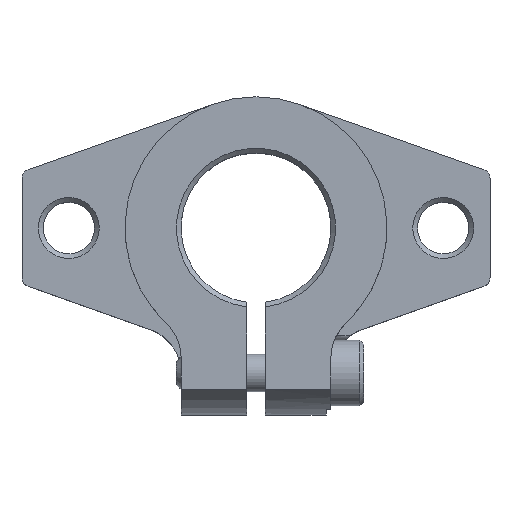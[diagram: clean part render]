
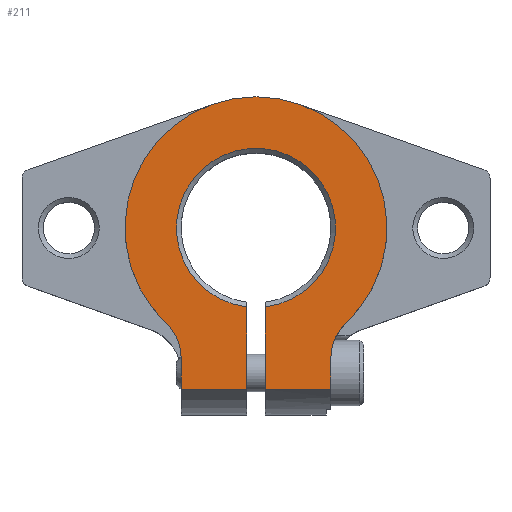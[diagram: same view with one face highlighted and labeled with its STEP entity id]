
A CAD part, top view. The second image highlights one B-rep face of the part: STEP entity #211.
In plain terms, the highlighted planar face has unit normal (0, 0, 1).
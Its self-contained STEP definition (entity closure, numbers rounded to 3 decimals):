
#211=ADVANCED_FACE('',(#784),#786,.T.);
#784=FACE_BOUND('',#785,.T.);
#785=EDGE_LOOP('',(#1278,#1279,#1280,#1281,#1282,#1283,#1284,#1285,#1286,#1287));
#786=PLANE('',#787);
#787=AXIS2_PLACEMENT_3D('',#788,#789,#790);
#788=CARTESIAN_POINT('',(0.,0.,8.));
#789=DIRECTION('',(0.,0.,1.));
#790=DIRECTION('',(1.,0.,0.));
#1278=ORIENTED_EDGE('',*,*,#1569,.T.);
#1279=ORIENTED_EDGE('',*,*,#1567,.T.);
#1280=ORIENTED_EDGE('',*,*,#1570,.T.);
#1281=ORIENTED_EDGE('',*,*,#1571,.T.);
#1282=ORIENTED_EDGE('',*,*,#1572,.T.);
#1283=ORIENTED_EDGE('',*,*,#1573,.T.);
#1284=ORIENTED_EDGE('',*,*,#1574,.T.);
#1285=ORIENTED_EDGE('',*,*,#1536,.T.);
#1286=ORIENTED_EDGE('',*,*,#1575,.T.);
#1287=ORIENTED_EDGE('',*,*,#1530,.T.);
#1530=EDGE_CURVE('',#1679,#1676,#1680,.T.);
#1536=EDGE_CURVE('',#1690,#1691,#1692,.T.);
#1567=EDGE_CURVE('',#1743,#1748,#1750,.T.);
#1569=EDGE_CURVE('',#1676,#1743,#1753,.T.);
#1570=EDGE_CURVE('',#1748,#1754,#1755,.F.);
#1571=EDGE_CURVE('',#1754,#1756,#1757,.T.);
#1572=EDGE_CURVE('',#1756,#1758,#1759,.F.);
#1573=EDGE_CURVE('',#1758,#1760,#1761,.F.);
#1574=EDGE_CURVE('',#1760,#1690,#1762,.F.);
#1575=EDGE_CURVE('',#1691,#1679,#1763,.F.);
#1676=VERTEX_POINT('',#1926);
#1679=VERTEX_POINT('',#1933);
#1680=LINE('',#1934,#1935);
#1690=VERTEX_POINT('',#1960);
#1691=VERTEX_POINT('',#1961);
#1692=LINE('',#1962,#1963);
#1743=VERTEX_POINT('',#2079);
#1748=VERTEX_POINT('',#2094);
#1750=LINE('',#2099,#2100);
#1753=CIRCLE('',#2107,8.5);
#1754=VERTEX_POINT('',#2111);
#1755=LINE('',#2112,#2113);
#1756=VERTEX_POINT('',#2115);
#1757=LINE('',#2116,#2117);
#1758=VERTEX_POINT('',#2119);
#1759=CIRCLE('',#2120,5.);
#1760=VERTEX_POINT('',#2124);
#1761=CIRCLE('',#2125,14.);
#1762=CIRCLE('',#2129,5.);
#1763=LINE('',#2133,#2134);
#1926=CARTESIAN_POINT('',(-1.,-8.441,8.));
#1933=CARTESIAN_POINT('',(-1.,-17.247,8.));
#1934=CARTESIAN_POINT('',(-1.,-17.247,8.));
#1935=VECTOR('',#1936,1.);
#1936=DIRECTION('',(0.,1.,0.));
#1960=CARTESIAN_POINT('',(-8.,-13.856,8.));
#1961=CARTESIAN_POINT('',(-8.,-17.247,8.));
#1962=CARTESIAN_POINT('',(-8.,-13.856,8.));
#1963=VECTOR('',#1964,1.);
#1964=DIRECTION('',(0.,-1.,0.));
#2079=CARTESIAN_POINT('',(1.,-8.441,8.));
#2094=CARTESIAN_POINT('',(1.,-17.247,8.));
#2099=CARTESIAN_POINT('',(1.,-8.441,8.));
#2100=VECTOR('',#2101,1.);
#2101=DIRECTION('',(0.,-1.,0.));
#2107=AXIS2_PLACEMENT_3D('',#2108,#2109,#2110);
#2108=CARTESIAN_POINT('',(0.,0.,8.));
#2109=DIRECTION('',(0.,0.,-1.));
#2110=DIRECTION('',(-0.118,-0.993,0.));
#2111=CARTESIAN_POINT('',(8.,-17.247,8.));
#2112=CARTESIAN_POINT('',(8.,-17.247,8.));
#2113=VECTOR('',#2114,1.);
#2114=DIRECTION('',(-1.,0.,0.));
#2115=CARTESIAN_POINT('',(8.,-13.856,8.));
#2116=CARTESIAN_POINT('',(8.,-17.247,8.));
#2117=VECTOR('',#2118,1.);
#2118=DIRECTION('',(0.,1.,0.));
#2119=CARTESIAN_POINT('',(9.579,-10.21,8.));
#2120=AXIS2_PLACEMENT_3D('',#2121,#2122,#2123);
#2121=CARTESIAN_POINT('',(13.,-13.856,8.));
#2122=DIRECTION('',(0.,0.,1.));
#2123=DIRECTION('',(-0.684,0.729,0.));
#2124=CARTESIAN_POINT('',(-9.579,-10.21,8.));
#2125=AXIS2_PLACEMENT_3D('',#2126,#2127,#2128);
#2126=CARTESIAN_POINT('',(0.,0.,8.));
#2127=DIRECTION('',(0.,0.,-1.));
#2128=DIRECTION('',(-0.684,-0.729,0.));
#2129=AXIS2_PLACEMENT_3D('',#2130,#2131,#2132);
#2130=CARTESIAN_POINT('',(-13.,-13.856,8.));
#2131=DIRECTION('',(0.,0.,1.));
#2132=DIRECTION('',(1.,0.,0.));
#2133=CARTESIAN_POINT('',(-1.,-17.247,8.));
#2134=VECTOR('',#2135,1.);
#2135=DIRECTION('',(-1.,0.,0.));
